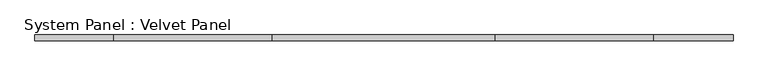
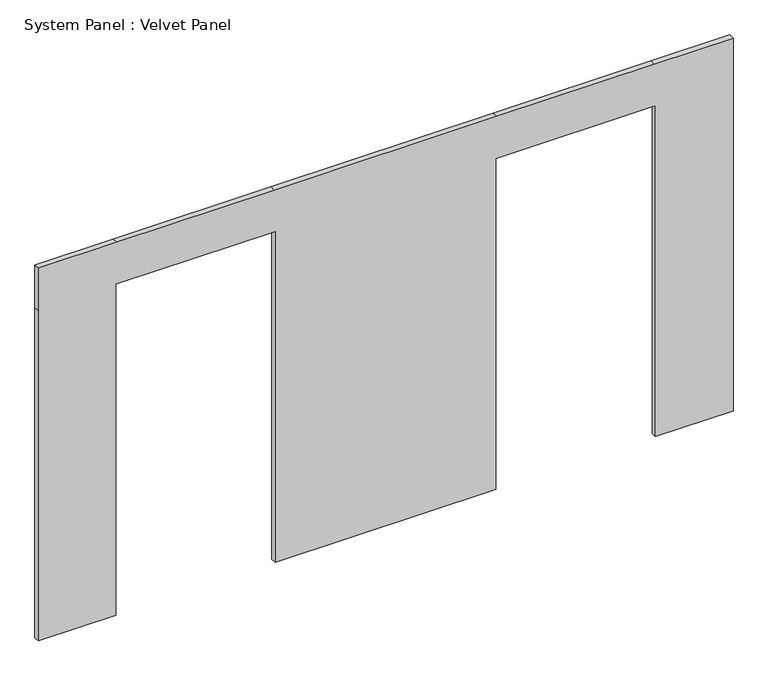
"""IFC4 building model written with IfcOpenShell, lengths in millimetres: plate geometry, System Panel : Velvet Panel."""

from ifc_helpers import new_model, si_unit, frame, origin, place, context, project, spatial, polyline, outline, extrude, source, transform, mapped, element, save


def system_panel_velvet_panel_61d1aac4(model_context):
    return source(origin(), model_context, "Body", "SweptSolid", [
        extrude(outline(polyline([(0.0, -2349.4998662), (0.0, -1826.0850812), (2368.55, -1826.0850812), (2368.55, -746.5850812), (0.0, -746.5850812), (0.0, 743.9211377), (2368.55, 743.9211377), (2368.55, 1823.4211377), (0.0, 1823.4211377), (0.0, 2349.4998662), (2362.2, 2349.4998662), (2667.0, 2349.4998662), (2667.0, 1817.0711377), (2667.0, 750.2711377), (2667.0, -752.9350812), (2667.0, -1819.7350812), (2667.0, -2349.4998662), (2362.2, -2349.4998662), (0.0, -2349.4998662)])), frame((0.0, 0.0, 0.0), z_axis=(0.0, 1.0, 0.0), x_axis=(0.0, 0.0, 1.0)), (0.0, 0.0, 1.0), 38.1),
    ])


if __name__ == "__main__":
    model = new_model("IFC4")
    model_context = context("Model", 3, world=origin())
    ifc_project = project(units=[si_unit("LENGTHUNIT", "METRE", prefix="MILLI")], contexts=[model_context])
    site = spatial("IfcSite", under=ifc_project)
    building = spatial("IfcBuilding", under=site)
    placement = place(None, origin())
    system_panel_velvet_panel_shape = system_panel_velvet_panel_61d1aac4(model_context)
    element("IfcPlate", 1, ObjectType="System Panel : Velvet Panel", at=placement, inside=building, context=model_context, shape_type="MappedRepresentation", body=[
        mapped(system_panel_velvet_panel_shape, transform((0.0, 0.0, 0.0), x_axis=(1.0, 0.0, 0.0), y_axis=(0.0, 1.0, 0.0), z_axis=(0.0, 0.0, 1.0))),
    ])
    save(model, "model.ifc")
